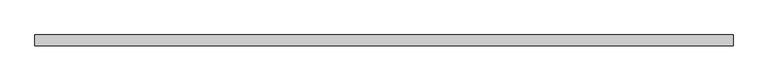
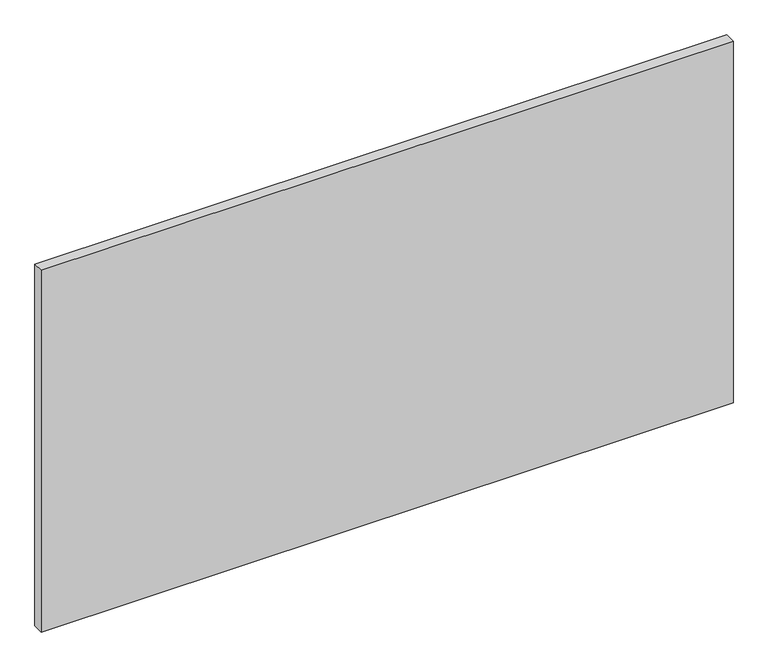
"""IFC4 building model written with IfcOpenShell, lengths in millimetres: proxy geometry, CAMBRIDGE^TABLE 2_4884 Rect-TOP."""

from ifc_helpers import new_model, si_unit, frame, origin, place, context, project, spatial, polyline, outline, extrude, source, transform, mapped, element, save


def generic_models_df23117e(model_context):
    return source(origin(), model_context, "Body", "SweptSolid", [
        extrude(outline(polyline([(2089.15, 31.75), (2089.15, 0.0), (44.45, 0.0), (44.45, 31.75), (2089.15, 31.75)])), frame((0.0, 0.0, -1174.75), z_axis=(0.0, 0.0, 1.0), x_axis=(1.0, 0.0, 0.0)), (0.0, 0.0, 1.0), 1130.3),
    ])


if __name__ == "__main__":
    model = new_model("IFC4")
    model_context = context("Model", 3, world=origin())
    ifc_project = project(units=[si_unit("LENGTHUNIT", "METRE", prefix="MILLI")], contexts=[model_context])
    site = spatial("IfcSite", under=ifc_project)
    building = spatial("IfcBuilding", under=site)
    placement = place(None, origin())
    generic_models_shape = generic_models_df23117e(model_context)
    element("IfcBuildingElementProxy", 1, Name="CAMBRIDGE^TABLE 2_4884 Rect-TOP", ObjectType="CAMBRIDGE^TABLE 2_4884 Rect-TOP", at=placement, inside=building, context=model_context, shape_type="MappedRepresentation", body=[
        mapped(generic_models_shape, transform((0.0, 0.0, 0.0), x_axis=(1.0, 0.0, 0.0), y_axis=(0.0, 1.0, 0.0), z_axis=(0.0, 0.0, 1.0))),
    ])
    save(model, "model.ifc")
